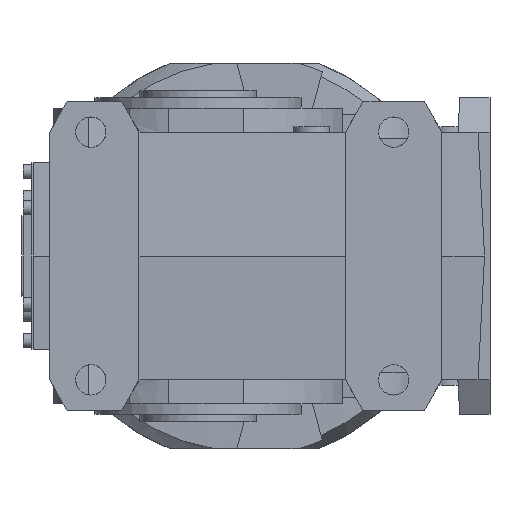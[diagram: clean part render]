
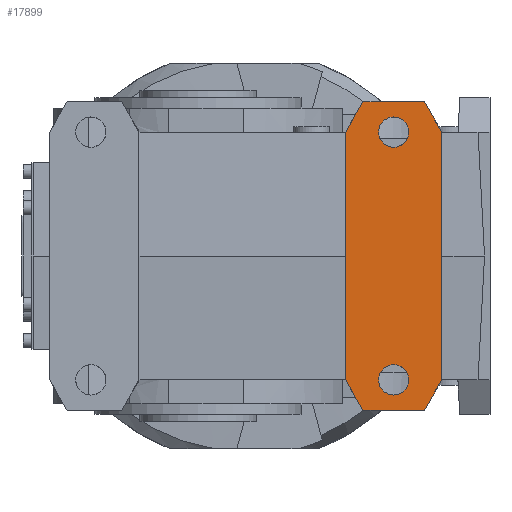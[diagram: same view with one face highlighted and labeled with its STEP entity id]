
A CAD part, left-side view. The second image highlights one B-rep face of the part: STEP entity #17899.
In plain terms, the highlighted planar face has unit normal (-1, 0, 0) as drawn and (1, 0, 0) by its records, which use the part's own axes.
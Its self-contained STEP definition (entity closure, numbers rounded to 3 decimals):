
#527=LINE('',#23725,#1831);
#531=LINE('',#23733,#1835);
#535=LINE('',#23739,#1839);
#563=LINE('',#23798,#1867);
#567=LINE('',#23806,#1871);
#574=LINE('',#23820,#1878);
#733=LINE('',#24219,#2037);
#734=LINE('',#24220,#2038);
#1831=VECTOR('',#19965,1000.);
#1835=VECTOR('',#19971,1000.);
#1839=VECTOR('',#19977,1000.);
#1867=VECTOR('',#20017,1000.);
#1871=VECTOR('',#20023,1000.);
#1878=VECTOR('',#20032,1000.);
#2037=VECTOR('',#20337,1000.);
#2038=VECTOR('',#20338,1000.);
#3491=ORIENTED_EDGE('',*,*,#7054,.F.);
#3492=ORIENTED_EDGE('',*,*,#7055,.F.);
#3493=ORIENTED_EDGE('',*,*,#6817,.F.);
#3494=ORIENTED_EDGE('',*,*,#7056,.T.);
#3495=ORIENTED_EDGE('',*,*,#6854,.F.);
#3496=ORIENTED_EDGE('',*,*,#6850,.F.);
#3497=ORIENTED_EDGE('',*,*,#6861,.F.);
#3498=ORIENTED_EDGE('',*,*,#7057,.F.);
#3499=ORIENTED_EDGE('',*,*,#6821,.F.);
#3500=ORIENTED_EDGE('',*,*,#6813,.T.);
#6813=EDGE_CURVE('',#8633,#8632,#527,.T.);
#6817=EDGE_CURVE('',#8635,#8632,#531,.T.);
#6821=EDGE_CURVE('',#8633,#8637,#535,.T.);
#6850=EDGE_CURVE('',#8661,#8662,#563,.T.);
#6854=EDGE_CURVE('',#8662,#8665,#567,.T.);
#6861=EDGE_CURVE('',#8670,#8661,#574,.T.);
#7054=EDGE_CURVE('',#8816,#8816,#9830,.F.);
#7055=EDGE_CURVE('',#8817,#8817,#9831,.F.);
#7056=EDGE_CURVE('',#8635,#8665,#733,.T.);
#7057=EDGE_CURVE('',#8637,#8670,#734,.T.);
#8632=VERTEX_POINT('',#23724);
#8633=VERTEX_POINT('',#23726);
#8635=VERTEX_POINT('',#23732);
#8637=VERTEX_POINT('',#23740);
#8661=VERTEX_POINT('',#23797);
#8662=VERTEX_POINT('',#23799);
#8665=VERTEX_POINT('',#23807);
#8670=VERTEX_POINT('',#23819);
#8816=VERTEX_POINT('',#24216);
#8817=VERTEX_POINT('',#24218);
#9830=CIRCLE('',#18714,11.);
#9831=CIRCLE('',#18715,11.);
#10269=EDGE_LOOP('',(#3491));
#10270=EDGE_LOOP('',(#3492));
#10271=EDGE_LOOP('',(#3493,#3494,#3495,#3496,#3497,#3498,#3499,#3500));
#11229=FACE_BOUND('',#10269,.T.);
#11230=FACE_BOUND('',#10270,.T.);
#11231=FACE_BOUND('',#10271,.T.);
#12201=PLANE('',#18713);
#17899=ADVANCED_FACE('',(#11229,#11230,#11231),#12201,.F.);
#18713=AXIS2_PLACEMENT_3D('',#24214,#20331,#20332);
#18714=AXIS2_PLACEMENT_3D('',#24215,#20333,#20334);
#18715=AXIS2_PLACEMENT_3D('',#24217,#20335,#20336);
#19965=DIRECTION('',(0.,-1.,0.));
#19971=DIRECTION('',(0.,0.5,0.866));
#19977=DIRECTION('',(0.,0.5,-0.866));
#20017=DIRECTION('',(0.,-1.,0.));
#20023=DIRECTION('',(0.,-0.5,0.866));
#20032=DIRECTION('',(0.,-0.5,-0.866));
#20331=DIRECTION('',(-1.,0.,0.));
#20332=DIRECTION('',(0.,0.,1.));
#20333=DIRECTION('',(-1.,0.,0.));
#20334=DIRECTION('',(0.,0.,1.));
#20335=DIRECTION('',(-1.,0.,0.));
#20336=DIRECTION('',(0.,0.,1.));
#20337=DIRECTION('',(0.,0.,-1.));
#20338=DIRECTION('',(0.,0.,-1.));
#23724=CARTESIAN_POINT('',(378.,-130.798,112.));
#23725=CARTESIAN_POINT('',(378.,141.5,112.));
#23726=CARTESIAN_POINT('',(378.,-86.202,112.));
#23732=CARTESIAN_POINT('',(378.,-143.5,90.));
#23733=CARTESIAN_POINT('',(378.,-143.5,90.));
#23739=CARTESIAN_POINT('',(378.,-86.202,112.));
#23740=CARTESIAN_POINT('',(378.,-73.5,90.));
#23797=CARTESIAN_POINT('',(378.,-86.202,-112.));
#23798=CARTESIAN_POINT('',(378.,141.5,-112.));
#23799=CARTESIAN_POINT('',(378.,-130.798,-112.));
#23806=CARTESIAN_POINT('',(378.,-130.798,-112.));
#23807=CARTESIAN_POINT('',(378.,-143.5,-90.));
#23819=CARTESIAN_POINT('',(378.,-73.5,-90.));
#23820=CARTESIAN_POINT('',(378.,-73.5,-90.));
#24214=CARTESIAN_POINT('',(378.,141.5,112.));
#24215=CARTESIAN_POINT('',(378.,-108.5,-90.));
#24216=CARTESIAN_POINT('',(378.,-108.5,-79.));
#24217=CARTESIAN_POINT('',(378.,-108.5,90.));
#24218=CARTESIAN_POINT('',(378.,-108.5,101.));
#24219=CARTESIAN_POINT('',(378.,-143.5,112.));
#24220=CARTESIAN_POINT('',(378.,-73.5,112.));
